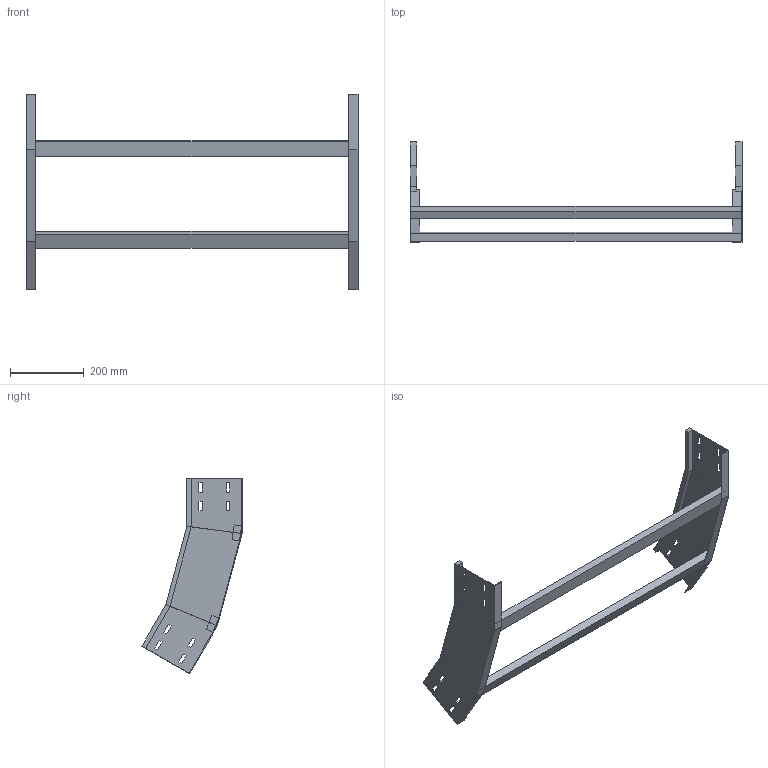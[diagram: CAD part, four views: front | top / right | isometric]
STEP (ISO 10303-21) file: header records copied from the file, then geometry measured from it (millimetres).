
FILE_DESCRIPTION (( 'STEP AP214' ), '1' );
FILE_NAME ('32J5F900.step', '2025-02-21T16:26:06', ( '' ), ( '' ), 'SwSTEP 2.0', 'SolidWorks 2023', '' );
FILE_SCHEMA (( 'AUTOMOTIVE_DESIGN' ));
Length unit declared in the file: millimetre
Products named in the file (3): TRAVERSINO_900; LONGH.SALITA_30°_H150_R500; 32J5F900
Assembly tree (4 placements, depth 2):
  32J5F900
    LONGH.SALITA_30°_H150_R500  x2
    TRAVERSINO_900  x2
Bounding box: 900 x 271.94 x 530.08 mm (x, y, z)
Volume: 1997406.5 mm3; surface area: 619844.7 mm2
Topology: 4 solids, 4 shells, 128 faces, 328 edges, 208 vertices
Faces by surface type: plane 128
Entity records: 2016 total; most frequent: CARTESIAN_POINT 339, ORIENTED_EDGE 328, DIRECTION 306, VECTOR 164, LINE 164, EDGE_CURVE 164, VERTEX_POINT 104, EDGE_LOOP 80
